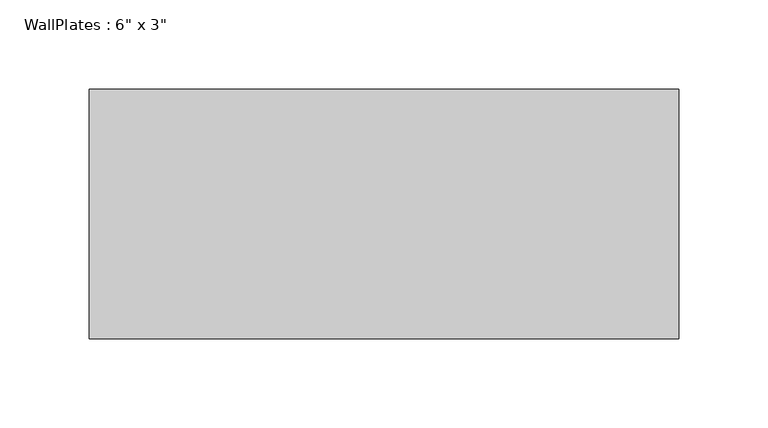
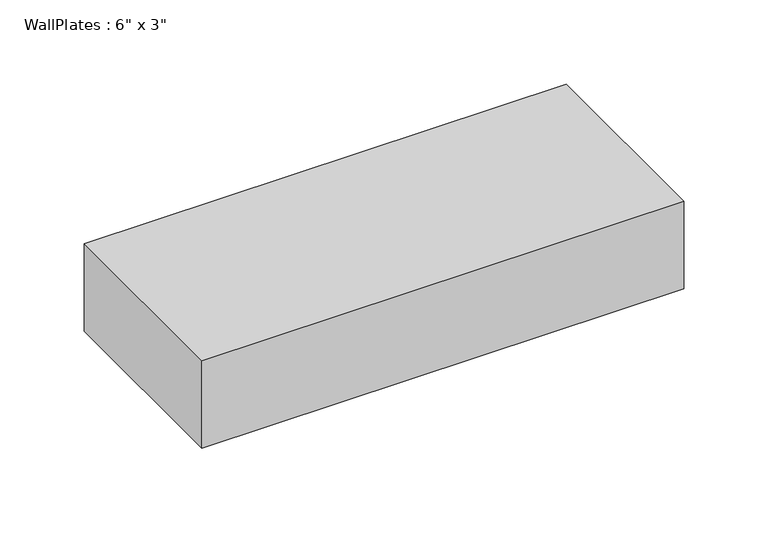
"""IFC4 building model written with IfcOpenShell, lengths in millimetres: beam geometry."""

from ifc_helpers import new_model, si_unit, frame, origin, place, context, project, spatial, polyline, outline, extrude, source, transform, mapped, element, save


def beam_92cb46f1(model_context):
    return source(origin(), model_context, "Body", "SweptSolid", [
        extrude(outline(polyline([(-165.105, -69.85), (-165.105, 69.85), (165.105, 69.85), (165.105, -69.85), (-165.105, -69.85)])), frame((0.0, 0.0, -31.75), z_axis=(0.0, 0.0, 1.0), x_axis=(1.0, 0.0, 0.0)), (0.0, 0.0, 1.0), 63.5),
    ])


if __name__ == "__main__":
    model = new_model("IFC4")
    model_context = context("Model", 3, world=origin())
    ifc_project = project(units=[si_unit("LENGTHUNIT", "METRE", prefix="MILLI")], contexts=[model_context])
    site = spatial("IfcSite", under=ifc_project)
    building = spatial("IfcBuilding", under=site)
    placement = place(None, origin())
    beam_shape = beam_92cb46f1(model_context)
    element("IfcBeam", 1, ObjectType="WallPlates : 6\" x 3\"", at=placement, inside=building, context=model_context, shape_type="MappedRepresentation", body=[
        mapped(beam_shape, transform((0.0, 0.0, 0.0), x_axis=(1.0, 0.0, 0.0), y_axis=(0.0, 1.0, 0.0), z_axis=(0.0, 0.0, 1.0))),
    ])
    save(model, "model.ifc")
